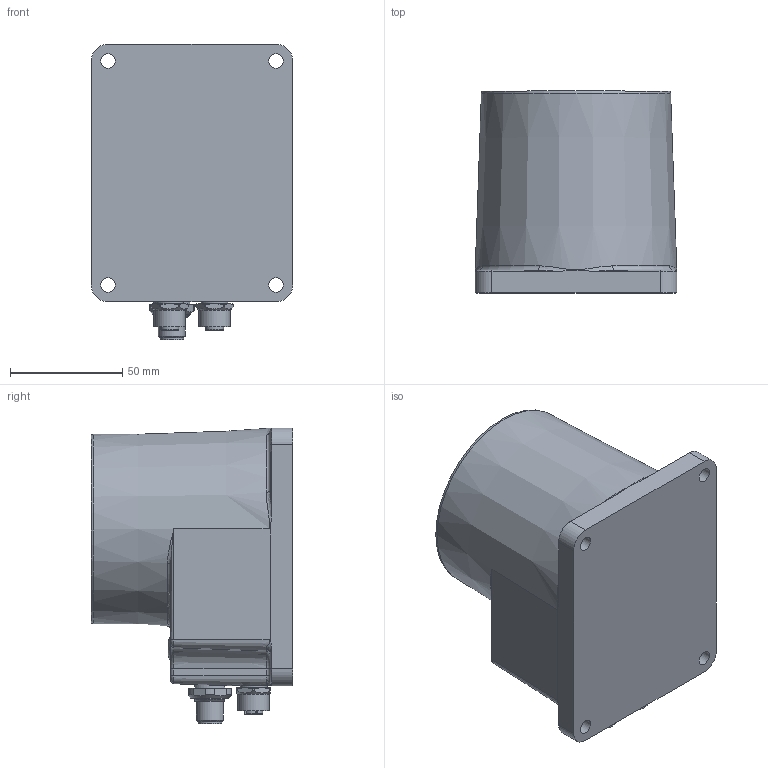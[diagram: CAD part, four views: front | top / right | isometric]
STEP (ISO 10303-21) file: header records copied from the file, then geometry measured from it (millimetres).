
FILE_DESCRIPTION(/* description */ (''),/* implementation_level */ '2;1');
FILE_NAME(/* name */ 'Axis1.stp',/* time_stamp */ '2024-07-16T13:50:55-04:00',/* author */ ('cbernier'),/* organization */ (''),/* preprocessor_version */ 'ST-DEVELOPER v20',/* originating_system */ 'Autodesk Inventor 2024',/* authorisation */ '');
FILE_SCHEMA (('AUTOMOTIVE_DESIGN { 1 0 10303 214 3 1 1 }'));
Length unit declared in the file: inch
Products named in the file (1): Axis1
Bounding box: 90 x 90 x 132 mm (x, y, z)
Volume: 701855 mm3; surface area: 55824.2 mm2
Topology: 1 solids, 12 shells, 2977 faces, 7883 edges, 5178 vertices
Faces by surface type: plane 1720, bspline 852, cylinder 267, torus 68, cone 38, sphere 32
Full cylindrical faces by diameter (mm): 1 x5, 1.1 x8, 1.5 x8, 1.6 x16, 1.7 x18, 2 x6, 6.5 x4, 8.15 x4, 8.2 x2, 8.3 x1, 8.5 x2, 10 x4, 10.5 x1, 10.92 x2, 12 x3, 14 x2
Entity records: 100967 total; most frequent: CARTESIAN_POINT 29814, ORIENTED_EDGE 15746, DIRECTION 10914, EDGE_CURVE 7873, LINE 5202, VECTOR 5202, VERTEX_POINT 5178, EDGE_LOOP 3271
